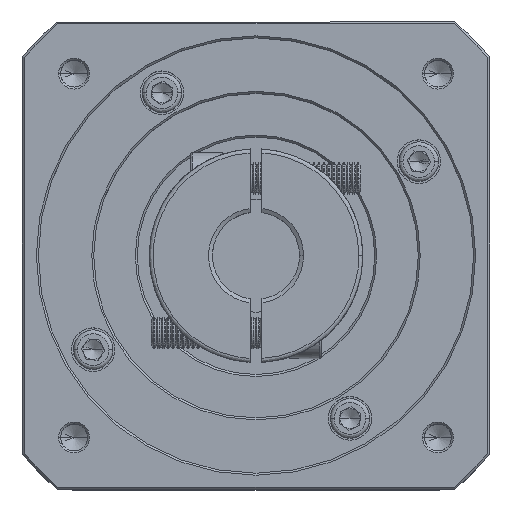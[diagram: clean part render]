
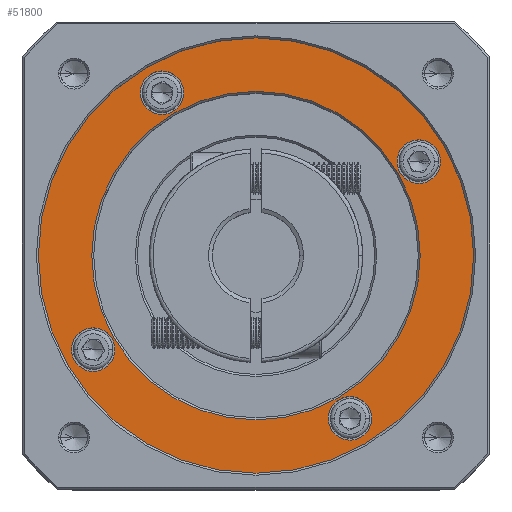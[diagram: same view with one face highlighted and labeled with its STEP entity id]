
A CAD part, top view. The second image highlights one B-rep face of the part: STEP entity #51800.
In plain terms, the highlighted planar face has unit normal (0, 0, 1).
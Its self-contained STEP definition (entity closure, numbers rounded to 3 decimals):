
#927 = AXIS2_PLACEMENT_3D ( 'NONE', #33811, #93267, #25613 ) ;
#4832 = DIRECTION ( 'NONE',  ( 0., 0., -1. ) ) ;
#5233 = CARTESIAN_POINT ( 'NONE',  ( -9.367, -150.047, 7.293 ) ) ;
#6327 = CARTESIAN_POINT ( 'NONE',  ( 19.019, -85.161, 7.293 ) ) ;
#7634 = ORIENTED_EDGE ( 'NONE', *, *, #88600, .T. ) ;
#8579 = ORIENTED_EDGE ( 'NONE', *, *, #70326, .T. ) ;
#8627 = ORIENTED_EDGE ( 'NONE', *, *, #69400, .T. ) ;
#8807 = DIRECTION ( 'NONE',  ( 1., 0., 0. ) ) ;
#9167 = CARTESIAN_POINT ( 'NONE',  ( -27.617, -108.911, 7.293 ) ) ;
#11176 = VERTEX_POINT ( 'NONE', #71645 ) ;
#11802 = EDGE_LOOP ( 'NONE', ( #7634, #52238 ) ) ;
#13061 = EDGE_LOOP ( 'NONE', ( #55793, #106098 ) ) ;
#13156 = AXIS2_PLACEMENT_3D ( 'NONE', #31268, #4832, #13801 ) ;
#13248 = CIRCLE ( 'NONE', #30061, 5.5 ) ;
#13801 = DIRECTION ( 'NONE',  ( 1., 0., 0. ) ) ;
#15643 = VERTEX_POINT ( 'NONE', #52527 ) ;
#15910 = CIRCLE ( 'NONE', #40988, 5.5 ) ;
#16286 = CIRCLE ( 'NONE', #68852, 5.5 ) ;
#17516 = CIRCLE ( 'NONE', #24365, 55. ) ;
#19129 = DIRECTION ( 'NONE',  ( 1., 0., 0. ) ) ;
#21004 = EDGE_LOOP ( 'NONE', ( #31175, #95756 ) ) ;
#22713 = EDGE_LOOP ( 'NONE', ( #8627, #106007 ) ) ;
#22986 = CIRCLE ( 'NONE', #13156, 5.5 ) ;
#23154 = DIRECTION ( 'NONE',  ( 0., 0., -1. ) ) ;
#24365 = AXIS2_PLACEMENT_3D ( 'NONE', #9167, #93628, #8807 ) ;
#24841 = DIRECTION ( 'NONE',  ( 0., 0., -1. ) ) ;
#25312 = CARTESIAN_POINT ( 'NONE',  ( -51.367, -67.775, 7.293 ) ) ;
#25613 = DIRECTION ( 'NONE',  ( 1., 0., 0. ) ) ;
#27120 = VERTEX_POINT ( 'NONE', #87093 ) ;
#27602 = FACE_BOUND ( 'NONE', #22713, .T. ) ;
#29419 = CARTESIAN_POINT ( 'NONE',  ( -68.753, -132.661, 7.293 ) ) ;
#30013 = EDGE_CURVE ( 'NONE', #15643, #73633, #74613, .T. ) ;
#30061 = AXIS2_PLACEMENT_3D ( 'NONE', #84703, #33054, #50058 ) ;
#31175 = ORIENTED_EDGE ( 'NONE', *, *, #30013, .T. ) ;
#31268 = CARTESIAN_POINT ( 'NONE',  ( -51.367, -67.775, 7.293 ) ) ;
#31501 = CARTESIAN_POINT ( 'NONE',  ( -45.867, -67.775, 7.293 ) ) ;
#31547 = FACE_BOUND ( 'NONE', #21004, .T. ) ;
#31778 = VERTEX_POINT ( 'NONE', #71669 ) ;
#33054 = DIRECTION ( 'NONE',  ( 0., 0., -1. ) ) ;
#33811 = CARTESIAN_POINT ( 'NONE',  ( -27.617, -108.911, 7.293 ) ) ;
#34184 = AXIS2_PLACEMENT_3D ( 'NONE', #53238, #96096, #70053 ) ;
#34605 = DIRECTION ( 'NONE',  ( 1., 0., 0. ) ) ;
#34748 = VERTEX_POINT ( 'NONE', #6327 ) ;
#37263 = CIRCLE ( 'NONE', #106129, 5.5 ) ;
#37695 = CARTESIAN_POINT ( 'NONE',  ( -3.867, -150.047, 7.293 ) ) ;
#40988 = AXIS2_PLACEMENT_3D ( 'NONE', #53247, #52874, #19129 ) ;
#42018 = CIRCLE ( 'NONE', #101061, 41.5 ) ;
#42699 = VERTEX_POINT ( 'NONE', #77756 ) ;
#45531 = DIRECTION ( 'NONE',  ( 1., 0., 0. ) ) ;
#45788 = DIRECTION ( 'NONE',  ( 0., 0., -1. ) ) ;
#45945 = EDGE_CURVE ( 'NONE', #73633, #15643, #62040, .T. ) ;
#47490 = FACE_OUTER_BOUND ( 'NONE', #13061, .T. ) ;
#50058 = DIRECTION ( 'NONE',  ( 1., 0., 0. ) ) ;
#50105 = FACE_BOUND ( 'NONE', #11802, .T. ) ;
#51147 = CARTESIAN_POINT ( 'NONE',  ( -68.753, -132.661, 7.293 ) ) ;
#51212 = CARTESIAN_POINT ( 'NONE',  ( -56.867, -67.775, 7.293 ) ) ;
#51371 = FACE_BOUND ( 'NONE', #103802, .T. ) ;
#51776 = ORIENTED_EDGE ( 'NONE', *, *, #87431, .T. ) ;
#51800 = ADVANCED_FACE ( 'NONE', ( #47490, #50105, #71413, #31547, #27602, #51371 ), #79409, .T. ) ;
#52238 = ORIENTED_EDGE ( 'NONE', *, *, #53982, .T. ) ;
#52527 = CARTESIAN_POINT ( 'NONE',  ( 1.633, -150.047, 7.293 ) ) ;
#52874 = DIRECTION ( 'NONE',  ( 0., 0., -1. ) ) ;
#53238 = CARTESIAN_POINT ( 'NONE',  ( -27.617, -108.911, 7.293 ) ) ;
#53247 = CARTESIAN_POINT ( 'NONE',  ( 13.519, -85.161, 7.293 ) ) ;
#53800 = CARTESIAN_POINT ( 'NONE',  ( -82.617, -108.911, 7.293 ) ) ;
#53982 = EDGE_CURVE ( 'NONE', #42699, #61468, #87955, .T. ) ;
#55793 = ORIENTED_EDGE ( 'NONE', *, *, #56745, .T. ) ;
#56745 = EDGE_CURVE ( 'NONE', #91092, #110086, #17516, .T. ) ;
#61468 = VERTEX_POINT ( 'NONE', #103449 ) ;
#61716 = CARTESIAN_POINT ( 'NONE',  ( 27.383, -108.911, 7.293 ) ) ;
#62040 = CIRCLE ( 'NONE', #64613, 5.5 ) ;
#62134 = ORIENTED_EDGE ( 'NONE', *, *, #106634, .T. ) ;
#64613 = AXIS2_PLACEMENT_3D ( 'NONE', #37695, #79662, #89343 ) ;
#67209 = VERTEX_POINT ( 'NONE', #31501 ) ;
#67537 = DIRECTION ( 'NONE',  ( 1., 0., 0. ) ) ;
#68852 = AXIS2_PLACEMENT_3D ( 'NONE', #25312, #85529, #34605 ) ;
#69400 = EDGE_CURVE ( 'NONE', #67209, #104529, #22986, .T. ) ;
#69630 = AXIS2_PLACEMENT_3D ( 'NONE', #51147, #24841, #67537 ) ;
#70053 = DIRECTION ( 'NONE',  ( 0., -1., 0. ) ) ;
#70326 = EDGE_CURVE ( 'NONE', #34748, #27120, #15910, .T. ) ;
#71413 = FACE_BOUND ( 'NONE', #98483, .T. ) ;
#71645 = CARTESIAN_POINT ( 'NONE',  ( -74.253, -132.661, 7.293 ) ) ;
#71669 = CARTESIAN_POINT ( 'NONE',  ( -63.253, -132.661, 7.293 ) ) ;
#73633 = VERTEX_POINT ( 'NONE', #5233 ) ;
#74613 = CIRCLE ( 'NONE', #87345, 5.5 ) ;
#77091 = CIRCLE ( 'NONE', #69630, 5.5 ) ;
#77756 = CARTESIAN_POINT ( 'NONE',  ( -27.617, -67.411, 7.293 ) ) ;
#78984 = AXIS2_PLACEMENT_3D ( 'NONE', #87238, #95793, #45531 ) ;
#79409 = PLANE ( 'NONE',  #78984 ) ;
#79662 = DIRECTION ( 'NONE',  ( 0., 0., -1. ) ) ;
#80268 = CIRCLE ( 'NONE', #927, 55. ) ;
#80387 = CARTESIAN_POINT ( 'NONE',  ( -3.867, -150.047, 7.293 ) ) ;
#81113 = CARTESIAN_POINT ( 'NONE',  ( -27.617, -108.911, 7.293 ) ) ;
#83459 = EDGE_CURVE ( 'NONE', #11176, #31778, #37263, .T. ) ;
#84612 = ORIENTED_EDGE ( 'NONE', *, *, #83459, .T. ) ;
#84703 = CARTESIAN_POINT ( 'NONE',  ( 13.519, -85.161, 7.293 ) ) ;
#85529 = DIRECTION ( 'NONE',  ( 0., 0., -1. ) ) ;
#87093 = CARTESIAN_POINT ( 'NONE',  ( 8.019, -85.161, 7.293 ) ) ;
#87238 = CARTESIAN_POINT ( 'NONE',  ( -27.617, -108.911, 7.293 ) ) ;
#87345 = AXIS2_PLACEMENT_3D ( 'NONE', #80387, #45788, #89707 ) ;
#87431 = EDGE_CURVE ( 'NONE', #31778, #11176, #77091, .T. ) ;
#87955 = CIRCLE ( 'NONE', #34184, 41.5 ) ;
#88600 = EDGE_CURVE ( 'NONE', #61468, #42699, #42018, .T. ) ;
#89343 = DIRECTION ( 'NONE',  ( 1., 0., 0. ) ) ;
#89707 = DIRECTION ( 'NONE',  ( 1., 0., 0. ) ) ;
#90083 = DIRECTION ( 'NONE',  ( 0., -1., 0. ) ) ;
#90723 = DIRECTION ( 'NONE',  ( 1., 0., 0. ) ) ;
#91092 = VERTEX_POINT ( 'NONE', #61716 ) ;
#91310 = EDGE_CURVE ( 'NONE', #110086, #91092, #80268, .T. ) ;
#93267 = DIRECTION ( 'NONE',  ( 0., 0., 1. ) ) ;
#93628 = DIRECTION ( 'NONE',  ( 0., 0., 1. ) ) ;
#95756 = ORIENTED_EDGE ( 'NONE', *, *, #45945, .T. ) ;
#95793 = DIRECTION ( 'NONE',  ( 0., 0., 1. ) ) ;
#96096 = DIRECTION ( 'NONE',  ( 0., 0., -1. ) ) ;
#98483 = EDGE_LOOP ( 'NONE', ( #8579, #62134 ) ) ;
#99392 = EDGE_CURVE ( 'NONE', #104529, #67209, #16286, .T. ) ;
#101061 = AXIS2_PLACEMENT_3D ( 'NONE', #81113, #23154, #90083 ) ;
#103449 = CARTESIAN_POINT ( 'NONE',  ( -27.617, -150.411, 7.293 ) ) ;
#103802 = EDGE_LOOP ( 'NONE', ( #51776, #84612 ) ) ;
#104529 = VERTEX_POINT ( 'NONE', #51212 ) ;
#106007 = ORIENTED_EDGE ( 'NONE', *, *, #99392, .T. ) ;
#106098 = ORIENTED_EDGE ( 'NONE', *, *, #91310, .T. ) ;
#106129 = AXIS2_PLACEMENT_3D ( 'NONE', #29419, #107376, #90723 ) ;
#106634 = EDGE_CURVE ( 'NONE', #27120, #34748, #13248, .T. ) ;
#107376 = DIRECTION ( 'NONE',  ( 0., 0., -1. ) ) ;
#110086 = VERTEX_POINT ( 'NONE', #53800 ) ;
